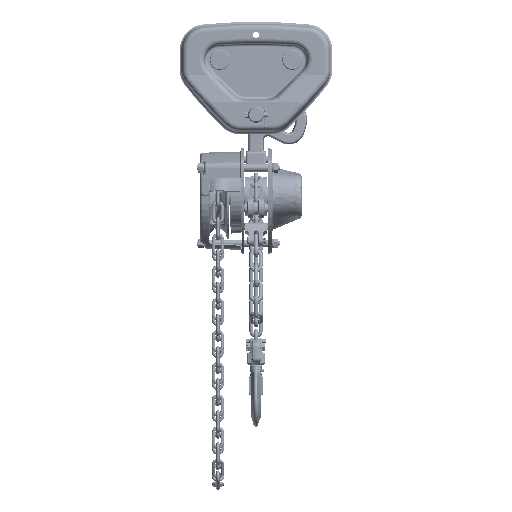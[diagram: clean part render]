
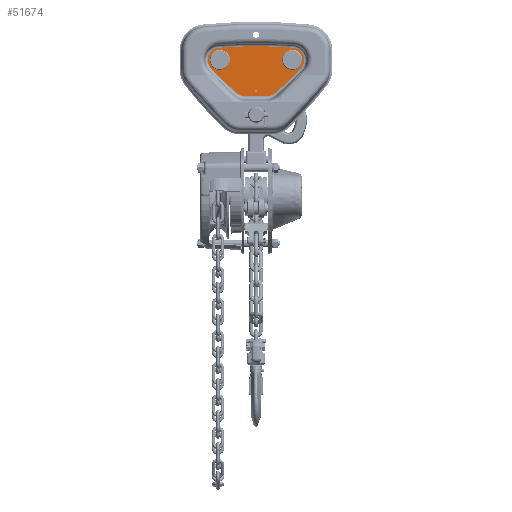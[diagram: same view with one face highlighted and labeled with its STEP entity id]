
A CAD part, top view. The second image highlights one B-rep face of the part: STEP entity #51674.
In plain terms, the highlighted planar face has unit normal (0, 0, 1).
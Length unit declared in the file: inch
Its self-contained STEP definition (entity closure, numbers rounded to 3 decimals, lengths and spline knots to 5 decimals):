
#5 = CARTESIAN_POINT ( 'NONE',  ( -0.6053, 2.02379, 0.15748 ) ) ;
#5845 = CARTESIAN_POINT ( 'NONE',  ( 2.74583, 2.83353, 0.15748 ) ) ;
#8581 = ORIENTED_EDGE ( 'NONE', *, *, #344152, .T. ) ;
#9117 = CARTESIAN_POINT ( 'NONE',  ( -1.69291, 3.34646, 0.15748 ) ) ;
#23089 = VERTEX_POINT ( 'NONE', #64383 ) ;
#24204 = CARTESIAN_POINT ( 'NONE',  ( -2.2586, 4.08946, 0.15748 ) ) ;
#24569 = CIRCLE ( 'NONE', #276401, 0.51181 ) ;
#31446 = EDGE_CURVE ( 'NONE', #209614, #155928, #271516, .T. ) ;
#33608 = CARTESIAN_POINT ( 'NONE',  ( -14.33462, 19.01282, 0.15748 ) ) ;
#34834 = DIRECTION ( 'NONE',  ( 1., 0., 0. ) ) ;
#36458 = EDGE_CURVE ( 'NONE', #377534, #341277, #215359, .T. ) ;
#39563 = CIRCLE ( 'NONE', #99425, 0.08465 ) ;
#39739 = DIRECTION ( 'NONE',  ( 1., 0., 0. ) ) ;
#43148 = CIRCLE ( 'NONE', #288511, 0.74533 ) ;
#51674 = ADVANCED_FACE ( 'NONE', ( #122739, #149734, #87555, #405068 ), #120709, .T. ) ;
#56148 = DIRECTION ( 'NONE',  ( 1., 0., 0. ) ) ;
#58425 = DIRECTION ( 'NONE',  ( 1., 0., 0. ) ) ;
#61231 = EDGE_LOOP ( 'NONE', ( #300609, #182239 ) ) ;
#62821 = CARTESIAN_POINT ( 'NONE',  ( -2.20472, 3.34646, 0.15748 ) ) ;
#64261 = DIRECTION ( 'NONE',  ( 0., 0., 1. ) ) ;
#64383 = CARTESIAN_POINT ( 'NONE',  ( 0.08465, 1.43701, 0.15748 ) ) ;
#64447 = AXIS2_PLACEMENT_3D ( 'NONE', #62821, #376310, #247607 ) ;
#65950 = DIRECTION ( 'NONE',  ( 0., 0., 1. ) ) ;
#69372 = CIRCLE ( 'NONE', #122402, 0.08465 ) ;
#69673 = EDGE_LOOP ( 'NONE', ( #98094, #99946 ) ) ;
#75314 = VERTEX_POINT ( 'NONE', #77170 ) ;
#77170 = CARTESIAN_POINT ( 'NONE',  ( 1.69291, 3.34646, 0.15748 ) ) ;
#77275 = EDGE_LOOP ( 'NONE', ( #86109, #229828 ) ) ;
#77497 = CIRCLE ( 'NONE', #64447, 0.51181 ) ;
#78452 = VECTOR ( 'NONE', #172173, 39.37008 ) ;
#81384 = CARTESIAN_POINT ( 'NONE',  ( 2.20472, 3.34609, 0.15748 ) ) ;
#82889 = CARTESIAN_POINT ( 'NONE',  ( 0.6053, 1.12059, 0.15748 ) ) ;
#86109 = ORIENTED_EDGE ( 'NONE', *, *, #396876, .F. ) ;
#87555 = FACE_OUTER_BOUND ( 'NONE', #257243, .T. ) ;
#94380 = CIRCLE ( 'NONE', #399227, 23.52682 ) ;
#98094 = ORIENTED_EDGE ( 'NONE', *, *, #259823, .T. ) ;
#99425 = AXIS2_PLACEMENT_3D ( 'NONE', #121416, #150452, #187729 ) ;
#99946 = ORIENTED_EDGE ( 'NONE', *, *, #217492, .T. ) ;
#103524 = AXIS2_PLACEMENT_3D ( 'NONE', #33608, #259788, #39739 ) ;
#106731 = DIRECTION ( 'NONE',  ( 0., 0., 1. ) ) ;
#108884 = CARTESIAN_POINT ( 'NONE',  ( 2.2586, 4.08946, 0.15748 ) ) ;
#111024 = VERTEX_POINT ( 'NONE', #24204 ) ;
#113214 = CARTESIAN_POINT ( 'NONE',  ( 2.20472, 3.34609, 0.15748 ) ) ;
#115170 = VERTEX_POINT ( 'NONE', #269478 ) ;
#115260 = DIRECTION ( 'NONE',  ( 1., 0., 0. ) ) ;
#118441 = DIRECTION ( 'NONE',  ( 0., 0., 1. ) ) ;
#118575 = ORIENTED_EDGE ( 'NONE', *, *, #401405, .T. ) ;
#120709 = PLANE ( 'NONE',  #177154 ) ;
#121416 = CARTESIAN_POINT ( 'NONE',  ( 0., 1.43701, 0.15748 ) ) ;
#122402 = AXIS2_PLACEMENT_3D ( 'NONE', #210688, #366407, #405763 ) ;
#122739 = FACE_BOUND ( 'NONE', #77275, .T. ) ;
#137700 = VERTEX_POINT ( 'NONE', #343673 ) ;
#137734 = CARTESIAN_POINT ( 'NONE',  ( -1.20174, 1.34554, 0.15748 ) ) ;
#139042 = LINE ( 'NONE', #82889, #78452 ) ;
#139885 = DIRECTION ( 'NONE',  ( 1., 0., 0. ) ) ;
#146808 = CARTESIAN_POINT ( 'NONE',  ( 0.6053, 1.12059, 0.15748 ) ) ;
#149734 = FACE_BOUND ( 'NONE', #61231, .T. ) ;
#149974 = CARTESIAN_POINT ( 'NONE',  ( 2.71654, 3.34646, 0.15748 ) ) ;
#150452 = DIRECTION ( 'NONE',  ( 0., 0., -1. ) ) ;
#153851 = CARTESIAN_POINT ( 'NONE',  ( 14.33462, 19.01282, 0.15748 ) ) ;
#154265 = CARTESIAN_POINT ( 'NONE',  ( -2.71654, 3.34646, 0.15748 ) ) ;
#155928 = VERTEX_POINT ( 'NONE', #189050 ) ;
#156117 = ORIENTED_EDGE ( 'NONE', *, *, #259792, .T. ) ;
#157010 = EDGE_CURVE ( 'NONE', #381566, #111024, #294883, .T. ) ;
#161393 = ORIENTED_EDGE ( 'NONE', *, *, #279769, .T. ) ;
#172173 = DIRECTION ( 'NONE',  ( 1., 0., 0. ) ) ;
#176755 = DIRECTION ( 'NONE',  ( 1., 0., 0. ) ) ;
#177154 = AXIS2_PLACEMENT_3D ( 'NONE', #153851, #342789, #58425 ) ;
#179739 = EDGE_CURVE ( 'NONE', #115170, #255539, #222858, .T. ) ;
#180363 = CARTESIAN_POINT ( 'NONE',  ( -2.20472, 3.34609, 0.15748 ) ) ;
#182239 = ORIENTED_EDGE ( 'NONE', *, *, #36458, .F. ) ;
#187729 = DIRECTION ( 'NONE',  ( 1., 0., 0. ) ) ;
#189050 = CARTESIAN_POINT ( 'NONE',  ( -0.6053, 1.12059, 0.15748 ) ) ;
#190950 = CIRCLE ( 'NONE', #277223, 0.51181 ) ;
#209614 = VERTEX_POINT ( 'NONE', #137734 ) ;
#210688 = CARTESIAN_POINT ( 'NONE',  ( 0., 1.43701, 0.15748 ) ) ;
#215359 = CIRCLE ( 'NONE', #321475, 0.51181 ) ;
#216263 = ORIENTED_EDGE ( 'NONE', *, *, #179739, .T. ) ;
#217492 = EDGE_CURVE ( 'NONE', #23089, #236171, #69372, .T. ) ;
#218470 = AXIS2_PLACEMENT_3D ( 'NONE', #5, #64261, #317520 ) ;
#220288 = ORIENTED_EDGE ( 'NONE', *, *, #157010, .T. ) ;
#222858 = CIRCLE ( 'NONE', #103524, 23.52682 ) ;
#224189 = VERTEX_POINT ( 'NONE', #149974 ) ;
#229828 = ORIENTED_EDGE ( 'NONE', *, *, #250327, .F. ) ;
#236171 = VERTEX_POINT ( 'NONE', #320726 ) ;
#239793 = DIRECTION ( 'NONE',  ( 0., 0., 1. ) ) ;
#247455 = AXIS2_PLACEMENT_3D ( 'NONE', #250771, #346289, #350367 ) ;
#247607 = DIRECTION ( 'NONE',  ( 1., 0., 0. ) ) ;
#250327 = EDGE_CURVE ( 'NONE', #224189, #75314, #190950, .T. ) ;
#250747 = EDGE_CURVE ( 'NONE', #341277, #377534, #77497, .T. ) ;
#250771 = CARTESIAN_POINT ( 'NONE',  ( 0.6053, 2.02379, 0.15748 ) ) ;
#255539 = VERTEX_POINT ( 'NONE', #5845 ) ;
#257243 = EDGE_LOOP ( 'NONE', ( #216263, #156117, #161393, #220288, #302933, #8581, #294405, #118575, #314107 ) ) ;
#259788 = DIRECTION ( 'NONE',  ( 0., 0., 1. ) ) ;
#259792 = EDGE_CURVE ( 'NONE', #255539, #137700, #377655, .T. ) ;
#259823 = EDGE_CURVE ( 'NONE', #236171, #23089, #39563, .T. ) ;
#261981 = AXIS2_PLACEMENT_3D ( 'NONE', #323449, #288203, #356624 ) ;
#268531 = CARTESIAN_POINT ( 'NONE',  ( 2.20472, 3.34646, 0.15748 ) ) ;
#269478 = CARTESIAN_POINT ( 'NONE',  ( 1.20174, 1.34554, 0.15748 ) ) ;
#271516 = CIRCLE ( 'NONE', #218470, 0.9032 ) ;
#275896 = DIRECTION ( 'NONE',  ( 0., 0., 1. ) ) ;
#276401 = AXIS2_PLACEMENT_3D ( 'NONE', #410545, #65950, #34834 ) ;
#277223 = AXIS2_PLACEMENT_3D ( 'NONE', #268531, #361955, #299712 ) ;
#279769 = EDGE_CURVE ( 'NONE', #137700, #381566, #398871, .T. ) ;
#282328 = CARTESIAN_POINT ( 'NONE',  ( 14.33462, 19.01282, 0.15748 ) ) ;
#284458 = EDGE_CURVE ( 'NONE', #388362, #115170, #399739, .T. ) ;
#288203 = DIRECTION ( 'NONE',  ( 0., 0., 1. ) ) ;
#288511 = AXIS2_PLACEMENT_3D ( 'NONE', #180363, #275896, #402478 ) ;
#294405 = ORIENTED_EDGE ( 'NONE', *, *, #31446, .T. ) ;
#294883 = CIRCLE ( 'NONE', #261981, 31.24336 ) ;
#295640 = CARTESIAN_POINT ( 'NONE',  ( -2.20472, 3.34646, 0.15748 ) ) ;
#299712 = DIRECTION ( 'NONE',  ( 1., 0., 0. ) ) ;
#300609 = ORIENTED_EDGE ( 'NONE', *, *, #250747, .F. ) ;
#302933 = ORIENTED_EDGE ( 'NONE', *, *, #360303, .T. ) ;
#311566 = AXIS2_PLACEMENT_3D ( 'NONE', #113214, #239793, #115260 ) ;
#314107 = ORIENTED_EDGE ( 'NONE', *, *, #284458, .T. ) ;
#317520 = DIRECTION ( 'NONE',  ( 1., 0., 0. ) ) ;
#320726 = CARTESIAN_POINT ( 'NONE',  ( -0.08465, 1.43701, 0.15748 ) ) ;
#321475 = AXIS2_PLACEMENT_3D ( 'NONE', #295640, #106731, #139885 ) ;
#323449 = CARTESIAN_POINT ( 'NONE',  ( 0., -27.07215, 0.15748 ) ) ;
#326071 = AXIS2_PLACEMENT_3D ( 'NONE', #81384, #367755, #176755 ) ;
#341277 = VERTEX_POINT ( 'NONE', #154265 ) ;
#342789 = DIRECTION ( 'NONE',  ( 0., 0., 1. ) ) ;
#343673 = CARTESIAN_POINT ( 'NONE',  ( 2.95005, 3.34609, 0.15748 ) ) ;
#344152 = EDGE_CURVE ( 'NONE', #362074, #209614, #94380, .T. ) ;
#346289 = DIRECTION ( 'NONE',  ( 0., 0., 1. ) ) ;
#350367 = DIRECTION ( 'NONE',  ( 1., 0., 0. ) ) ;
#356624 = DIRECTION ( 'NONE',  ( 1., 0., 0. ) ) ;
#360303 = EDGE_CURVE ( 'NONE', #111024, #362074, #43148, .T. ) ;
#361955 = DIRECTION ( 'NONE',  ( 0., 0., 1. ) ) ;
#362074 = VERTEX_POINT ( 'NONE', #403653 ) ;
#366407 = DIRECTION ( 'NONE',  ( 0., 0., -1. ) ) ;
#367755 = DIRECTION ( 'NONE',  ( 0., 0., 1. ) ) ;
#376310 = DIRECTION ( 'NONE',  ( 0., 0., 1. ) ) ;
#377534 = VERTEX_POINT ( 'NONE', #9117 ) ;
#377655 = CIRCLE ( 'NONE', #311566, 0.74533 ) ;
#381566 = VERTEX_POINT ( 'NONE', #108884 ) ;
#388362 = VERTEX_POINT ( 'NONE', #146808 ) ;
#396876 = EDGE_CURVE ( 'NONE', #75314, #224189, #24569, .T. ) ;
#398871 = CIRCLE ( 'NONE', #326071, 0.74533 ) ;
#399227 = AXIS2_PLACEMENT_3D ( 'NONE', #282328, #118441, #56148 ) ;
#399739 = CIRCLE ( 'NONE', #247455, 0.9032 ) ;
#401405 = EDGE_CURVE ( 'NONE', #155928, #388362, #139042, .T. ) ;
#402478 = DIRECTION ( 'NONE',  ( 1., 0., 0. ) ) ;
#403653 = CARTESIAN_POINT ( 'NONE',  ( -2.74583, 2.83353, 0.15748 ) ) ;
#405068 = FACE_BOUND ( 'NONE', #69673, .T. ) ;
#405763 = DIRECTION ( 'NONE',  ( 1., 0., 0. ) ) ;
#410545 = CARTESIAN_POINT ( 'NONE',  ( 2.20472, 3.34646, 0.15748 ) ) ;
